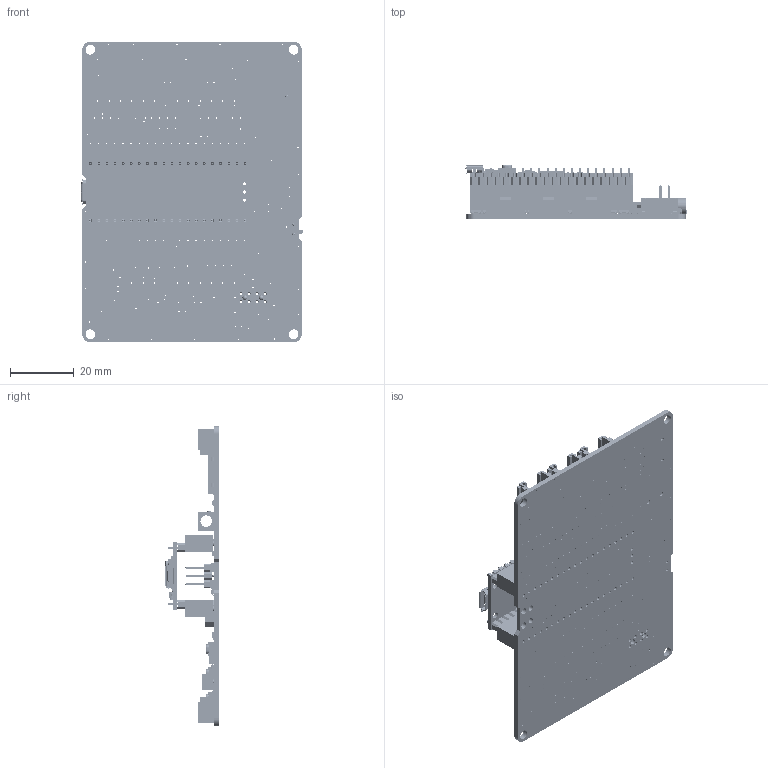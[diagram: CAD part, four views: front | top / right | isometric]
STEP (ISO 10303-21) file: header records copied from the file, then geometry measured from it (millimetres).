
FILE_DESCRIPTION (( 'STEP AP214' ), '1' );
FILE_NAME ('MAKER-PI-PICO-NB.STEP', '2021-06-25T08:17:33', ( '' ), ( '' ), 'SwSTEP 2.0', 'SolidWorks 2015', '' );
FILE_SCHEMA (( 'AUTOMOTIVE_DESIGN' ));
Length unit declared in the file: millimetre
Products named in the file (37): LED1608; Header Pin 1x20; ICs; FrqXTAL_CFPX-218; C1608; D-SOD-123 (1); USB-MICRO-B-REC; Packages; MICROSD-SOCKET; S-SP-4N-KAN3246; 0603_Capacitor; S-HDR-M2X03; AUDIO_JACK; Raspberry Pi Pico; Pi Pico Board; SW-SLIDE-SPDT-SMD; LED-1608; Controller; 1005_Capacitor; SOT-23; MAKER-PI-PICO-NB; SC70-3; 2012; MAKER-PI-PICO PCBA; D-SOD-123; R1608; C2012; LED-5050-WS2812B; S-CN-PH-F220S-ES_S-HDR-F2x20-LP; 1005; S-BUZZER-HXD-8530A-03627; Board; 0603; S-HDR-F2X04-LP; SW-PB-KAN3246; 1608; GROVE-04-RA
Assembly tree (228 placements, depth 4):
  MAKER-PI-PICO-NB
    MAKER-PI-PICO PCBA
      Board
      Packages
        AUDIO_JACK
        GROVE-04-RA  x6
        MICROSD-SOCKET
        S-HDR-F2X04-LP
        S-HDR-M2X03
        SOT-23  x27
        C1608  x13
        1608  x65
        2012  x4
        D-SOD-123 (1)  x26
        LED1608  x27
        LED-5050-WS2812B
        S-BUZZER-HXD-8530A-03627
        SW-PB-KAN3246  x4
        SW-SLIDE-SPDT-SMD
      S-CN-PH-F220S-ES_S-HDR-F2x20-LP  x2
    Raspberry Pi Pico
      Pi Pico Board
      0603  x2
      1005  x11
      0603_Capacitor  x12
      1005_Capacitor  x4
      C2012  x2
      R1608
      SC70-3
      S-SP-4N-KAN3246
      FrqXTAL_CFPX-218
      LED-1608
      USB-MICRO-B-REC
      D-SOD-123
      Controller
      ICs
      Header Pin 1x20  x2
Bounding box: 69.1 x 17.04 x 93.98 mm (x, y, z)
Volume: 19122.7 mm3; surface area: 33360.1 mm2
Topology: 470 solids, 470 shells, 16168 faces, 41530 edges, 25610 vertices
Faces by surface type: plane 11692, cylinder 3390, bspline 959, cone 70, sphere 33, torus 24
Entity records: 224510 total; most frequent: CARTESIAN_POINT 35935, ORIENTED_EDGE 31660, DIRECTION 31282, EDGE_CURVE 15830, VECTOR 11968, LINE 11968, VERTEX_POINT 10044, AXIS2_PLACEMENT_3D 9657
